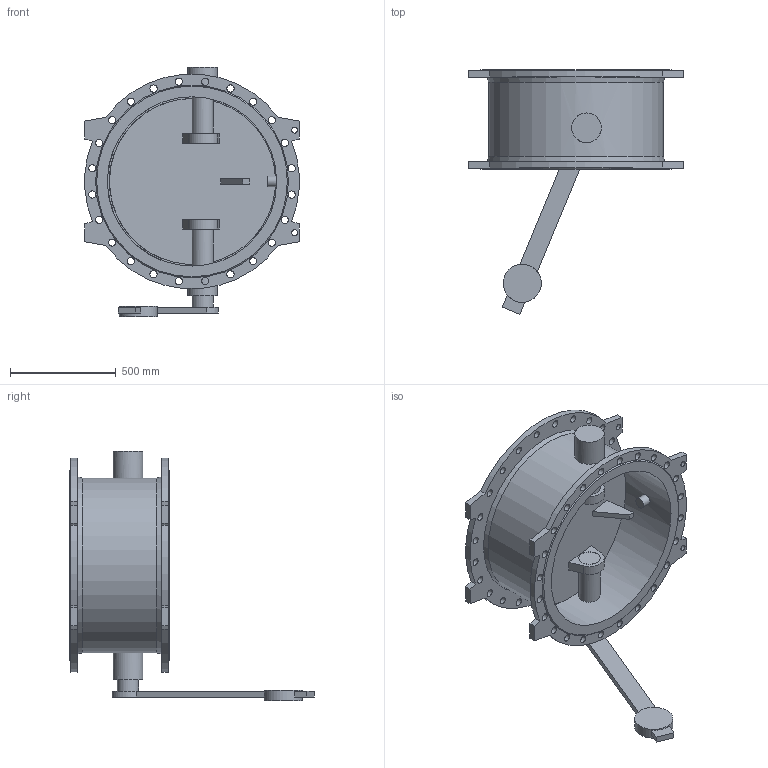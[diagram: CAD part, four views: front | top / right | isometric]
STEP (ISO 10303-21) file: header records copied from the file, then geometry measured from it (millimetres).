
FILE_DESCRIPTION(('STEP AP203'), '1');
FILE_NAME('Êëàïàí 015F.PV DN800 PN10 ñ ïðîòèâîâåñîì', '', ('UNSPECIFIED'), ('UNSPECIFIED'), 'ASCON STEP Converter 1.6', 'ASCON Math Kernel', '');
FILE_SCHEMA(('CONFIG_CONTROL_DESIGN'));
Length unit declared in the file: millimetre
Bounding box: 1015 x 1155 x 1180 mm (x, y, z)
Volume: 51322069.4 mm3; surface area: 5471063.1 mm2
Topology: 1 solids, 1 shells, 144 faces, 377 edges, 250 vertices
Faces by surface type: cylinder 74, plane 63, cone 4, extrusion 2, bspline 1
Full cylindrical faces by diameter (mm): 28 x4, 34 x48, 50 x1, 100 x3, 102 x2, 140 x2, 180 x1, 800 x1, 826 x1
Entity records: 6564 total; most frequent: CARTESIAN_POINT 1773, DIRECTION 726, ORIENTED_EDGE 606, EDGE_LOOP 342, EDGE_CURVE 303, AXIS2_PLACEMENT_3D 297, VERTEX_POINT 249, FACE_BOUND 206
